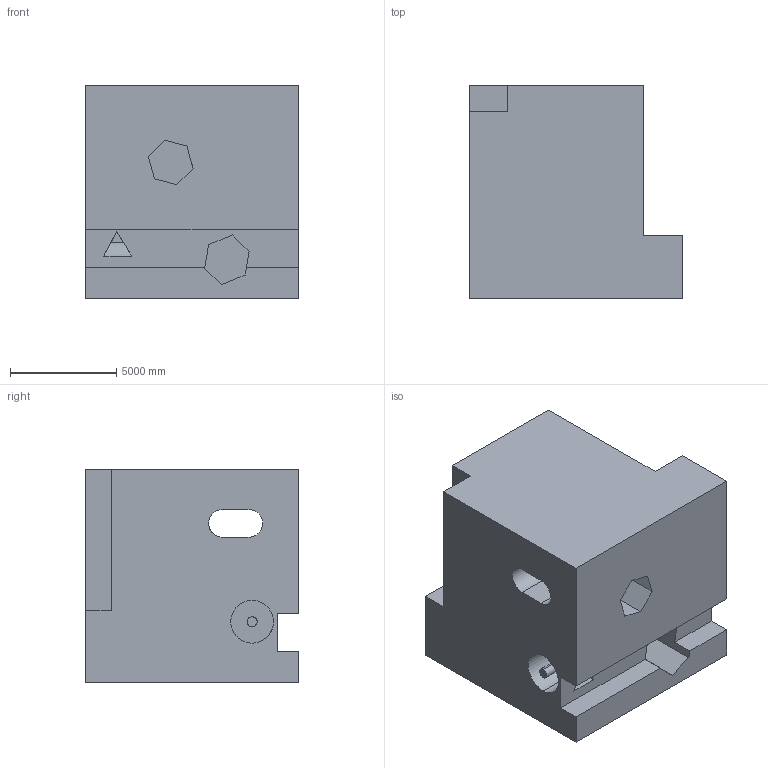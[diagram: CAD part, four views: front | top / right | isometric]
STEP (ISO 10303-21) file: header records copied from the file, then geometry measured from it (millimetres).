
FILE_DESCRIPTION (( 'STEP AP203' ), '1' );
FILE_NAME ('149.STEP', '2022-08-31T11:56:11', ( 'user' ), ( '' ), 'SwSTEP 2.0', 'SolidWorks 2021', '' );
FILE_SCHEMA (( 'CONFIG_CONTROL_DESIGN' ));
Length unit declared in the file: centimetre
Products named in the file (1): 149
Bounding box: 10000 x 10000 x 10000 mm (x, y, z)
Volume: 748849941168 mm3; surface area: 735399229.4 mm2
Topology: 1 solids, 1 shells, 50 faces, 141 edges, 94 vertices
Faces by surface type: plane 44, cylinder 6
Entity records: 1685 total; most frequent: CARTESIAN_POINT 319, ORIENTED_EDGE 282, DIRECTION 243, EDGE_CURVE 141, VECTOR 119, LINE 119, VERTEX_POINT 94, AXIS2_PLACEMENT_3D 62
